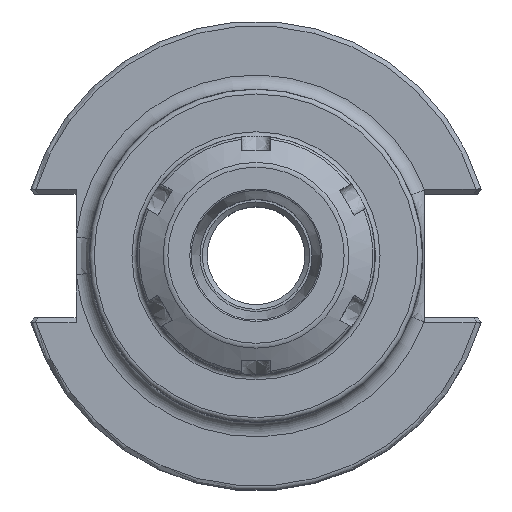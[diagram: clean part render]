
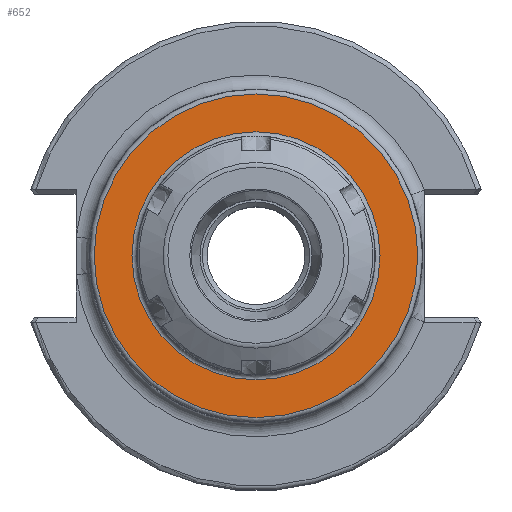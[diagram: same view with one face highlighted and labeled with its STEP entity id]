
A CAD part, top view. The second image highlights one B-rep face of the part: STEP entity #652.
In plain terms, the highlighted planar face has unit normal (0, 0, 1).
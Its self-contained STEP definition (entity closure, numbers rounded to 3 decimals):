
#359=FACE_BOUND('',#1005,.T.);
#360=FACE_BOUND('',#1006,.T.);
#652=ADVANCED_FACE('',(#359,#360),#744,.T.);
#744=PLANE('',#3073);
#1005=EDGE_LOOP('',(#1980));
#1006=EDGE_LOOP('',(#1981));
#1186=CIRCLE('',#3071,26.);
#1187=CIRCLE('',#3072,33.925);
#1980=ORIENTED_EDGE('',*,*,#2775,.T.);
#1981=ORIENTED_EDGE('',*,*,#2776,.T.);
#2442=VERTEX_POINT('',#5158);
#2443=VERTEX_POINT('',#5160);
#2775=EDGE_CURVE('',#2442,#2442,#1186,.T.);
#2776=EDGE_CURVE('',#2443,#2443,#1187,.T.);
#3071=AXIS2_PLACEMENT_3D('',#5157,#3631,#3632);
#3072=AXIS2_PLACEMENT_3D('',#5159,#3633,#3634);
#3073=AXIS2_PLACEMENT_3D('',#5161,#3635,#3636);
#3631=DIRECTION('',(0.,0.,-1.));
#3632=DIRECTION('',(1.,0.,0.));
#3633=DIRECTION('',(0.,0.,1.));
#3634=DIRECTION('',(1.,0.,0.));
#3635=DIRECTION('',(0.,0.,1.));
#3636=DIRECTION('',(-1.,0.,0.));
#5157=CARTESIAN_POINT('',(0.,0.,136.65));
#5158=CARTESIAN_POINT('',(26.,0.,136.65));
#5159=CARTESIAN_POINT('',(0.,0.,136.65));
#5160=CARTESIAN_POINT('',(33.925,0.,136.65));
#5161=CARTESIAN_POINT('',(0.,-34.925,136.65));
